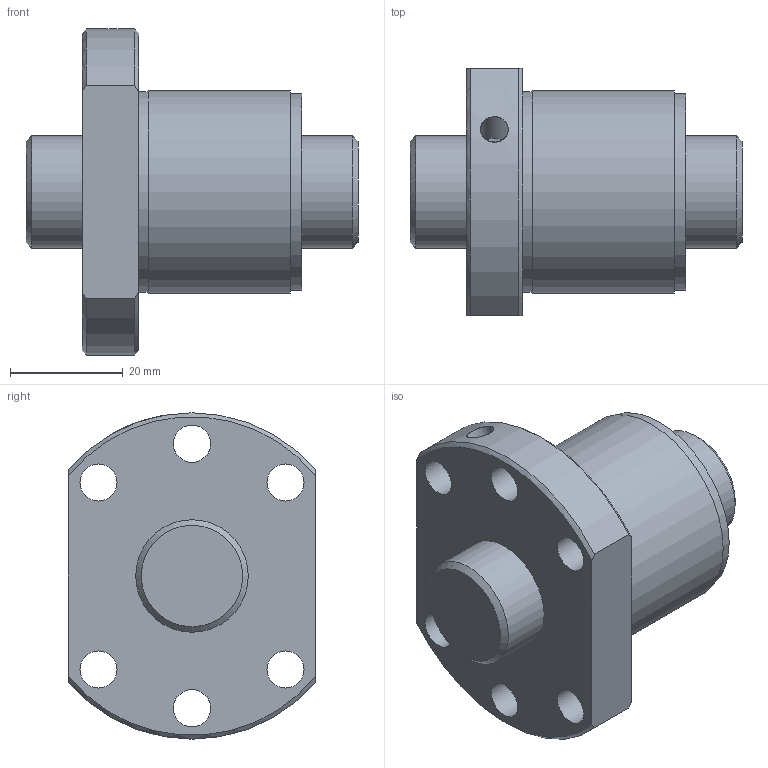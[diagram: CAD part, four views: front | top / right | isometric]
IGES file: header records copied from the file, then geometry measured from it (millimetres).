
Start section: Data from Parasolid IGES Translator 26.0.171, Copyright(c) 2006 Siemens PLM Software. All Rights Reserved.
Global section: file name: SDA2010V-3G0+59LC0(0G000).igs; native system: By Siemens PLM Incorporated; preprocessor: XPlus GENERIC/IGES 26.0.171; author: Noname; organization: Noname; date: 20240528.113002; units: millimetre
Bounding box: 59 x 44 x 58 mm (x, y, z)
Surface area: 16699.7 mm2 (no closed solid volume)
Topology: 0 solids, 0 shells, 31 faces, 156 edges, 140 vertices
Faces by surface type: revolution 22, extrusion 9
